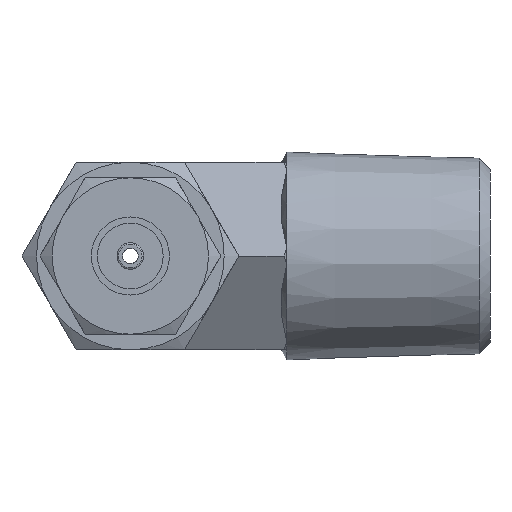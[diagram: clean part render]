
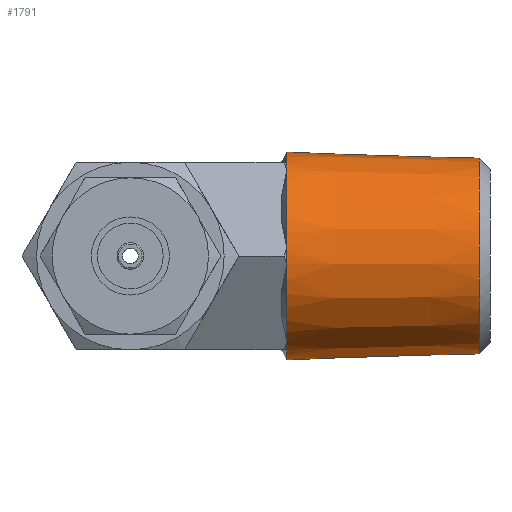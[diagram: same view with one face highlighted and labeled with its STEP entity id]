
A CAD part, left-side view. The second image highlights one B-rep face of the part: STEP entity #1791.
In plain terms, the highlighted conical face has half-angle 1.79 degrees and reference radius 6.458 mm.
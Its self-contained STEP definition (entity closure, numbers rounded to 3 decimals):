
#37=FACE_BOUND('',#439,.T.);
#112=CIRCLE('',#1971,6.266);
#113=CIRCLE('',#1972,6.65);
#114=CIRCLE('',#1973,6.65);
#115=CIRCLE('',#1974,6.65);
#116=CIRCLE('',#1975,6.65);
#117=CIRCLE('',#1976,6.65);
#118=CIRCLE('',#1977,6.65);
#119=CIRCLE('',#1978,6.65);
#120=CIRCLE('',#1979,6.65);
#121=CIRCLE('',#1980,6.65);
#122=CIRCLE('',#1981,6.65);
#123=CIRCLE('',#1982,6.65);
#124=CIRCLE('',#1983,6.65);
#188=CONICAL_SURFACE('',#1970,6.458,1.79);
#295=FACE_OUTER_BOUND('',#438,.T.);
#438=EDGE_LOOP('',(#1494));
#439=EDGE_LOOP('',(#1495,#1496,#1497,#1498,#1499,#1500,#1501,#1502,#1503,
#1504,#1505,#1506));
#829=VERTEX_POINT('',#3128);
#830=VERTEX_POINT('',#3130);
#831=VERTEX_POINT('',#3131);
#832=VERTEX_POINT('',#3133);
#833=VERTEX_POINT('',#3135);
#834=VERTEX_POINT('',#3137);
#835=VERTEX_POINT('',#3139);
#836=VERTEX_POINT('',#3141);
#837=VERTEX_POINT('',#3143);
#838=VERTEX_POINT('',#3145);
#839=VERTEX_POINT('',#3147);
#840=VERTEX_POINT('',#3149);
#841=VERTEX_POINT('',#3151);
#1057=EDGE_CURVE('',#829,#829,#112,.T.);
#1058=EDGE_CURVE('',#830,#831,#113,.T.);
#1059=EDGE_CURVE('',#832,#830,#114,.T.);
#1060=EDGE_CURVE('',#833,#832,#115,.T.);
#1061=EDGE_CURVE('',#834,#833,#116,.T.);
#1062=EDGE_CURVE('',#835,#834,#117,.T.);
#1063=EDGE_CURVE('',#836,#835,#118,.T.);
#1064=EDGE_CURVE('',#837,#836,#119,.T.);
#1065=EDGE_CURVE('',#838,#837,#120,.T.);
#1066=EDGE_CURVE('',#839,#838,#121,.T.);
#1067=EDGE_CURVE('',#840,#839,#122,.T.);
#1068=EDGE_CURVE('',#841,#840,#123,.T.);
#1069=EDGE_CURVE('',#831,#841,#124,.T.);
#1494=ORIENTED_EDGE('',*,*,#1057,.T.);
#1495=ORIENTED_EDGE('',*,*,#1058,.F.);
#1496=ORIENTED_EDGE('',*,*,#1059,.F.);
#1497=ORIENTED_EDGE('',*,*,#1060,.F.);
#1498=ORIENTED_EDGE('',*,*,#1061,.F.);
#1499=ORIENTED_EDGE('',*,*,#1062,.F.);
#1500=ORIENTED_EDGE('',*,*,#1063,.F.);
#1501=ORIENTED_EDGE('',*,*,#1064,.F.);
#1502=ORIENTED_EDGE('',*,*,#1065,.F.);
#1503=ORIENTED_EDGE('',*,*,#1066,.F.);
#1504=ORIENTED_EDGE('',*,*,#1067,.F.);
#1505=ORIENTED_EDGE('',*,*,#1068,.F.);
#1506=ORIENTED_EDGE('',*,*,#1069,.F.);
#1791=ADVANCED_FACE('',(#295,#37),#188,.T.);
#1970=AXIS2_PLACEMENT_3D('',#3127,#2335,#2336);
#1971=AXIS2_PLACEMENT_3D('',#3129,#2337,#2338);
#1972=AXIS2_PLACEMENT_3D('',#3132,#2339,#2340);
#1973=AXIS2_PLACEMENT_3D('',#3134,#2341,#2342);
#1974=AXIS2_PLACEMENT_3D('',#3136,#2343,#2344);
#1975=AXIS2_PLACEMENT_3D('',#3138,#2345,#2346);
#1976=AXIS2_PLACEMENT_3D('',#3140,#2347,#2348);
#1977=AXIS2_PLACEMENT_3D('',#3142,#2349,#2350);
#1978=AXIS2_PLACEMENT_3D('',#3144,#2351,#2352);
#1979=AXIS2_PLACEMENT_3D('',#3146,#2353,#2354);
#1980=AXIS2_PLACEMENT_3D('',#3148,#2355,#2356);
#1981=AXIS2_PLACEMENT_3D('',#3150,#2357,#2358);
#1982=AXIS2_PLACEMENT_3D('',#3152,#2359,#2360);
#1983=AXIS2_PLACEMENT_3D('',#3153,#2361,#2362);
#2335=DIRECTION('center_axis',(0.,1.,0.));
#2336=DIRECTION('ref_axis',(-1.,0.,0.));
#2337=DIRECTION('center_axis',(0.,1.,0.));
#2338=DIRECTION('ref_axis',(-1.,0.,0.));
#2339=DIRECTION('center_axis',(0.,1.,0.));
#2340=DIRECTION('ref_axis',(-1.,0.,0.));
#2341=DIRECTION('center_axis',(0.,1.,0.));
#2342=DIRECTION('ref_axis',(-1.,0.,0.));
#2343=DIRECTION('center_axis',(0.,1.,0.));
#2344=DIRECTION('ref_axis',(-1.,0.,0.));
#2345=DIRECTION('center_axis',(0.,1.,0.));
#2346=DIRECTION('ref_axis',(-1.,0.,0.));
#2347=DIRECTION('center_axis',(0.,1.,0.));
#2348=DIRECTION('ref_axis',(-1.,0.,0.));
#2349=DIRECTION('center_axis',(0.,1.,0.));
#2350=DIRECTION('ref_axis',(-1.,0.,0.));
#2351=DIRECTION('center_axis',(0.,1.,0.));
#2352=DIRECTION('ref_axis',(-1.,0.,0.));
#2353=DIRECTION('center_axis',(0.,1.,0.));
#2354=DIRECTION('ref_axis',(-1.,0.,0.));
#2355=DIRECTION('center_axis',(0.,1.,0.));
#2356=DIRECTION('ref_axis',(-1.,0.,0.));
#2357=DIRECTION('center_axis',(0.,1.,0.));
#2358=DIRECTION('ref_axis',(-1.,0.,0.));
#2359=DIRECTION('center_axis',(0.,1.,0.));
#2360=DIRECTION('ref_axis',(-1.,0.,0.));
#2361=DIRECTION('center_axis',(0.,1.,0.));
#2362=DIRECTION('ref_axis',(-1.,0.,0.));
#3127=CARTESIAN_POINT('Origin',(0.,6.85,0.));
#3128=CARTESIAN_POINT('',(6.266,0.7,0.));
#3129=CARTESIAN_POINT('Origin',(0.,0.7,
0.));
#3130=CARTESIAN_POINT('',(6.63,13.,0.517));
#3131=CARTESIAN_POINT('',(6.63,13.,-0.517));
#3132=CARTESIAN_POINT('Origin',(0.,13.,0.));
#3133=CARTESIAN_POINT('',(3.762,13.,5.483));
#3134=CARTESIAN_POINT('Origin',(0.,13.,0.));
#3135=CARTESIAN_POINT('',(2.867,13.,6.));
#3136=CARTESIAN_POINT('Origin',(0.,13.,0.));
#3137=CARTESIAN_POINT('',(-2.867,13.,6.));
#3138=CARTESIAN_POINT('Origin',(0.,13.,0.));
#3139=CARTESIAN_POINT('',(-3.762,13.,5.483));
#3140=CARTESIAN_POINT('Origin',(0.,13.,0.));
#3141=CARTESIAN_POINT('',(-6.63,13.,0.517));
#3142=CARTESIAN_POINT('Origin',(0.,13.,0.));
#3143=CARTESIAN_POINT('',(-6.63,13.,-0.517));
#3144=CARTESIAN_POINT('Origin',(0.,13.,0.));
#3145=CARTESIAN_POINT('',(-3.762,13.,-5.483));
#3146=CARTESIAN_POINT('Origin',(0.,13.,0.));
#3147=CARTESIAN_POINT('',(-2.867,13.,-6.));
#3148=CARTESIAN_POINT('Origin',(0.,13.,0.));
#3149=CARTESIAN_POINT('',(2.867,13.,-6.));
#3150=CARTESIAN_POINT('Origin',(0.,13.,0.));
#3151=CARTESIAN_POINT('',(3.762,13.,-5.483));
#3152=CARTESIAN_POINT('Origin',(0.,13.,0.));
#3153=CARTESIAN_POINT('Origin',(0.,13.,0.));
